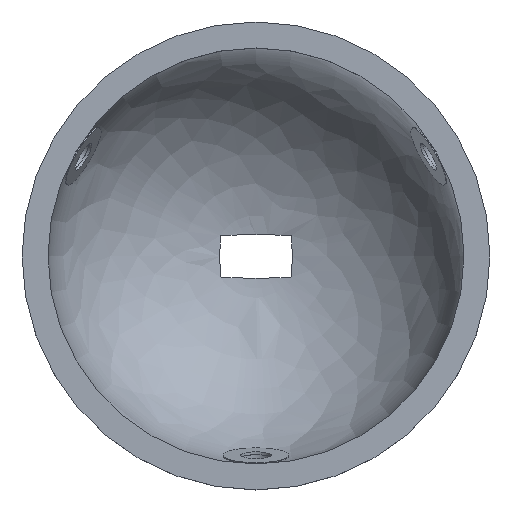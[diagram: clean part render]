
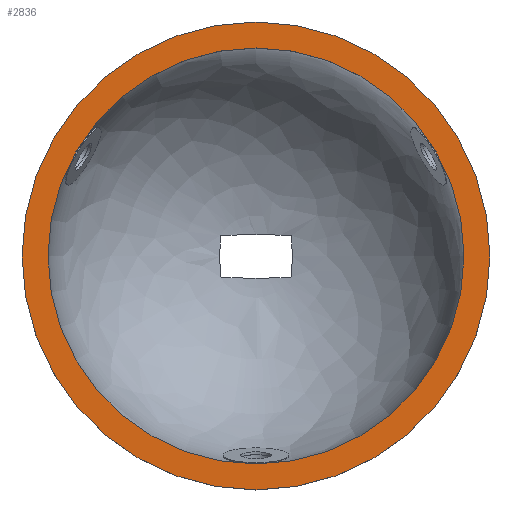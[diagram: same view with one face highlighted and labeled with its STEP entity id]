
A CAD part, top view. The second image highlights one B-rep face of the part: STEP entity #2836.
In plain terms, the highlighted planar face has unit normal (0, 0, 1).
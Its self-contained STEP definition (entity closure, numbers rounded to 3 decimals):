
#585 = CYLINDRICAL_SURFACE('',#586,24.);
#586 = AXIS2_PLACEMENT_3D('',#587,#588,#589);
#587 = CARTESIAN_POINT('',(0.,0.,-4.));
#588 = DIRECTION('',(0.,0.,1.));
#589 = DIRECTION('',(1.,0.,-0.));
#2144 = VERTEX_POINT('',#2145);
#2145 = CARTESIAN_POINT('',(24.,0.,0.));
#2166 = EDGE_CURVE('',#2144,#2144,#2167,.T.);
#2167 = SURFACE_CURVE('',#2168,(#2173,#2180),.PCURVE_S1.);
#2168 = CIRCLE('',#2169,24.);
#2169 = AXIS2_PLACEMENT_3D('',#2170,#2171,#2172);
#2170 = CARTESIAN_POINT('',(0.,0.,0.));
#2171 = DIRECTION('',(0.,0.,1.));
#2172 = DIRECTION('',(1.,0.,-0.));
#2173 = PCURVE('',#585,#2174);
#2174 = DEFINITIONAL_REPRESENTATION('',(#2175),#2179);
#2175 = LINE('',#2176,#2177);
#2176 = CARTESIAN_POINT('',(0.,4.));
#2177 = VECTOR('',#2178,1.);
#2178 = DIRECTION('',(1.,0.));
#2179 = ( GEOMETRIC_REPRESENTATION_CONTEXT(2) 
PARAMETRIC_REPRESENTATION_CONTEXT() REPRESENTATION_CONTEXT('2D SPACE',''
  ) );
#2180 = PCURVE('',#2181,#2186);
#2181 = PLANE('',#2182);
#2182 = AXIS2_PLACEMENT_3D('',#2183,#2184,#2185);
#2183 = CARTESIAN_POINT('',(0.,0.,0.));
#2184 = DIRECTION('',(0.,0.,1.));
#2185 = DIRECTION('',(1.,0.,-0.));
#2186 = DEFINITIONAL_REPRESENTATION('',(#2187),#2191);
#2187 = CIRCLE('',#2188,24.);
#2188 = AXIS2_PLACEMENT_2D('',#2189,#2190);
#2189 = CARTESIAN_POINT('',(0.,0.));
#2190 = DIRECTION('',(1.,-0.));
#2191 = ( GEOMETRIC_REPRESENTATION_CONTEXT(2) 
PARAMETRIC_REPRESENTATION_CONTEXT() REPRESENTATION_CONTEXT('2D SPACE',''
  ) );
#2836 = ADVANCED_FACE('',(#2837,#2840),#2181,.T.);
#2837 = FACE_BOUND('',#2838,.F.);
#2838 = EDGE_LOOP('',(#2839));
#2839 = ORIENTED_EDGE('',*,*,#2166,.T.);
#2840 = FACE_BOUND('',#2841,.F.);
#2841 = EDGE_LOOP('',(#2842));
#2842 = ORIENTED_EDGE('',*,*,#2843,.F.);
#2843 = EDGE_CURVE('',#2844,#2844,#2846,.T.);
#2844 = VERTEX_POINT('',#2845);
#2845 = CARTESIAN_POINT('',(27.,0.,0.));
#2846 = SURFACE_CURVE('',#2847,(#2852,#2859),.PCURVE_S1.);
#2847 = CIRCLE('',#2848,27.);
#2848 = AXIS2_PLACEMENT_3D('',#2849,#2850,#2851);
#2849 = CARTESIAN_POINT('',(0.,0.,0.));
#2850 = DIRECTION('',(0.,0.,1.));
#2851 = DIRECTION('',(1.,0.,-0.));
#2852 = PCURVE('',#2181,#2853);
#2853 = DEFINITIONAL_REPRESENTATION('',(#2854),#2858);
#2854 = CIRCLE('',#2855,27.);
#2855 = AXIS2_PLACEMENT_2D('',#2856,#2857);
#2856 = CARTESIAN_POINT('',(0.,0.));
#2857 = DIRECTION('',(1.,-0.));
#2858 = ( GEOMETRIC_REPRESENTATION_CONTEXT(2) 
PARAMETRIC_REPRESENTATION_CONTEXT() REPRESENTATION_CONTEXT('2D SPACE',''
  ) );
#2859 = PCURVE('',#2860,#2865);
#2860 = CYLINDRICAL_SURFACE('',#2861,27.);
#2861 = AXIS2_PLACEMENT_3D('',#2862,#2863,#2864);
#2862 = CARTESIAN_POINT('',(0.,0.,0.));
#2863 = DIRECTION('',(-0.,-0.,-1.));
#2864 = DIRECTION('',(1.,0.,0.));
#2865 = DEFINITIONAL_REPRESENTATION('',(#2866),#2870);
#2866 = LINE('',#2867,#2868);
#2867 = CARTESIAN_POINT('',(-0.,0.));
#2868 = VECTOR('',#2869,1.);
#2869 = DIRECTION('',(-1.,0.));
#2870 = ( GEOMETRIC_REPRESENTATION_CONTEXT(2) 
PARAMETRIC_REPRESENTATION_CONTEXT() REPRESENTATION_CONTEXT('2D SPACE',''
  ) );
